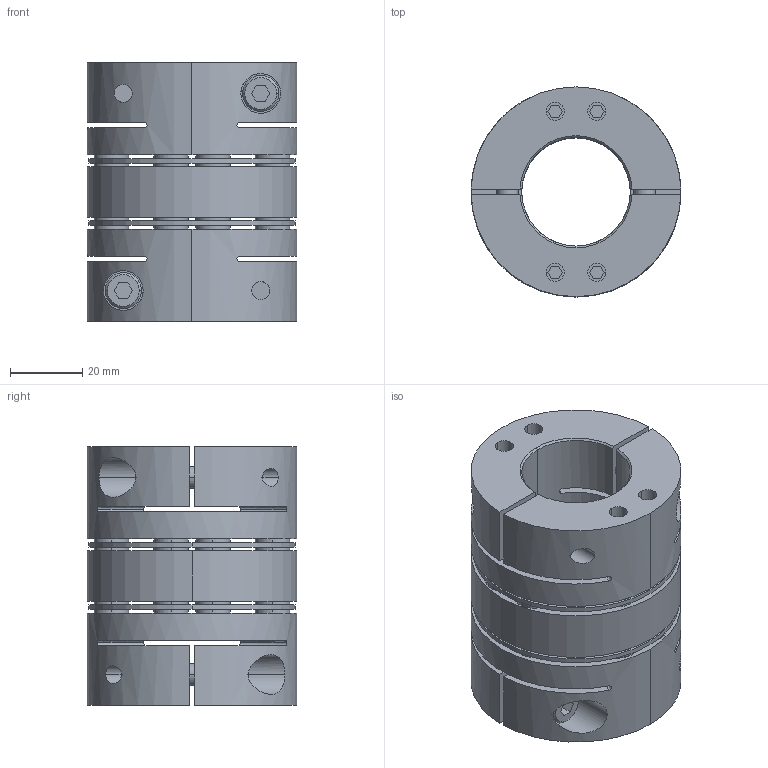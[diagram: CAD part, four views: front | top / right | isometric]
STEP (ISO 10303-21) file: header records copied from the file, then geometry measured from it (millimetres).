
FILE_DESCRIPTION((''),'2;1');
FILE_NAME('TAD-58C-30×30.stp','2022-11-13T22:10:55',(''),(''),'AutoCAD STEP 2000i','AutoCAD 2000i',', , ');
FILE_SCHEMA(('CONFIG_CONTROL_DESIGN'));
Length unit declared in the file: millimetre
Products named in the file (8): TAD-58C-22×22; 忣兜1; TA58C-22-2; CAP-M6×20; TA58C-22; TA58C-12-2; TA58C-12; TAS-58C-ITA
Assembly tree (10 placements, depth 3):
  TAD-58C-22×22
    忣兜1
    TA58C-22-2
      CAP-M6×20
    TA58C-22
      CAP-M6×20
    TA58C-12-2
      CAP-M6×20
    TA58C-12
      CAP-M6×20
    TAS-58C-ITA
Bounding box: 58 x 58 x 71.5 mm (x, y, z)
Volume: 115932.8 mm3; surface area: 53367.3 mm2
Topology: 1 solids, 5 shells, 568 faces, 1370 edges, 954 vertices
Faces by surface type: plane 252, cylinder 228, cone 72, bspline 16
Entity records: 18721 total; most frequent: CARTESIAN_POINT 4821, DIRECTION 3022, ORIENTED_EDGE 2640, EDGE_CURVE 1320, AXIS2_PLACEMENT_3D 1145, VERTEX_POINT 860, VECTOR 732, LINE 732
